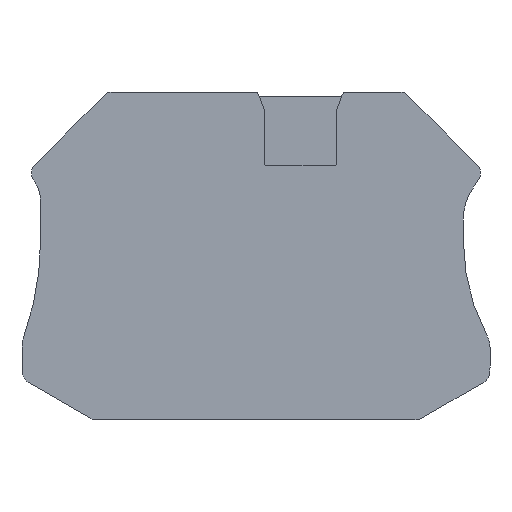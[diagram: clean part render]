
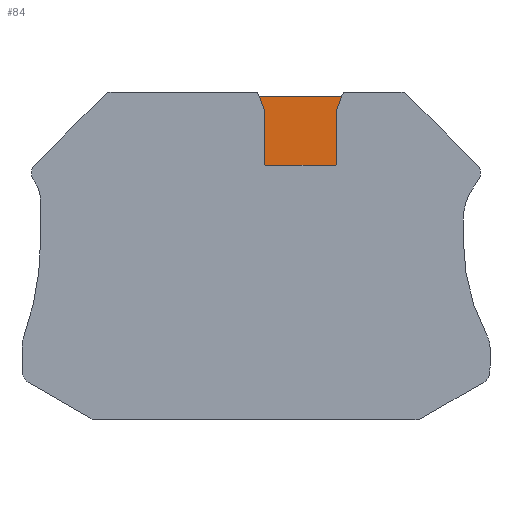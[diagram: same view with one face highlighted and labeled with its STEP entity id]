
A CAD part, left-side view. The second image highlights one B-rep face of the part: STEP entity #84.
In plain terms, the highlighted planar face has unit normal (-1, 0, 0).
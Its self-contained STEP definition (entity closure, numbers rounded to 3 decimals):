
#84=ADVANCED_FACE('',(#181),#182,.T.);
#181=FACE_OUTER_BOUND('',#297,.T.);
#182=PLANE('',#298);
#297=EDGE_LOOP('',(#701,#702,#703,#704,#705,#706,#707,#708,#709,#710));
#298=AXIS2_PLACEMENT_3D('',#711,#712,#713);
#701=ORIENTED_EDGE('',*,*,#978,.T.);
#702=ORIENTED_EDGE('',*,*,#992,.T.);
#703=ORIENTED_EDGE('',*,*,#993,.F.);
#704=ORIENTED_EDGE('',*,*,#994,.T.);
#705=ORIENTED_EDGE('',*,*,#995,.T.);
#706=ORIENTED_EDGE('',*,*,#996,.T.);
#707=ORIENTED_EDGE('',*,*,#997,.T.);
#708=ORIENTED_EDGE('',*,*,#998,.T.);
#709=ORIENTED_EDGE('',*,*,#961,.T.);
#710=ORIENTED_EDGE('',*,*,#967,.T.);
#711=CARTESIAN_POINT('',(0.3,35.942,-18.95));
#712=DIRECTION('',(-1.0,0.,0.));
#713=DIRECTION('',(0.,-1.0,0.));
#961=EDGE_CURVE('',#1221,#1222,#1223,.T.);
#967=EDGE_CURVE('',#1222,#1230,#1233,.T.);
#978=EDGE_CURVE('',#1230,#1250,#1252,.T.);
#992=EDGE_CURVE('',#1250,#1266,#1267,.T.);
#993=EDGE_CURVE('',#1268,#1266,#1269,.T.);
#994=EDGE_CURVE('',#1268,#1270,#1271,.T.);
#995=EDGE_CURVE('',#1270,#1272,#1273,.T.);
#996=EDGE_CURVE('',#1272,#1274,#1275,.T.);
#997=EDGE_CURVE('',#1274,#1276,#1277,.T.);
#998=EDGE_CURVE('',#1276,#1221,#1278,.T.);
#1221=VERTEX_POINT('',#1575);
#1222=VERTEX_POINT('',#1576);
#1223=LINE('',#1577,#1578);
#1230=VERTEX_POINT('',#1589);
#1233=LINE('',#1593,#1594);
#1250=VERTEX_POINT('',#1616);
#1252=LINE('',#1619,#1620);
#1266=VERTEX_POINT('',#1647);
#1267=CIRCLE('',#1648,1.0);
#1268=VERTEX_POINT('',#1649);
#1269=LINE('',#1650,#1651);
#1270=VERTEX_POINT('',#1652);
#1271=CIRCLE('',#1653,0.2);
#1272=VERTEX_POINT('',#1654);
#1273=LINE('',#1655,#1656);
#1274=VERTEX_POINT('',#1657);
#1275=CIRCLE('',#1658,0.2);
#1276=VERTEX_POINT('',#1659);
#1277=LINE('',#1660,#1661);
#1278=CIRCLE('',#1662,1.0);
#1575=CARTESIAN_POINT('',(0.3,24.469,-20.482));
#1576=CARTESIAN_POINT('',(0.3,23.912,-18.95));
#1577=CARTESIAN_POINT('',(0.3,24.469,-20.482));
#1578=VECTOR('',#1907,1.631);
#1589=CARTESIAN_POINT('',(0.3,33.948,-18.95));
#1593=CARTESIAN_POINT('',(0.3,23.912,-18.95));
#1594=VECTOR('',#1913,10.036);
#1616=CARTESIAN_POINT('',(0.3,33.39,-20.482));
#1619=CARTESIAN_POINT('',(0.3,33.948,-18.95));
#1620=VECTOR('',#1932,1.631);
#1647=CARTESIAN_POINT('',(0.3,33.33,-20.824));
#1648=AXIS2_PLACEMENT_3D('',#1946,#1947,#1948);
#1649=CARTESIAN_POINT('',(0.3,33.33,-27.15));
#1650=CARTESIAN_POINT('',(0.3,33.33,-27.15));
#1651=VECTOR('',#1949,6.326);
#1652=CARTESIAN_POINT('',(0.3,33.13,-27.35));
#1653=AXIS2_PLACEMENT_3D('',#1950,#1951,#1952);
#1654=CARTESIAN_POINT('',(0.3,24.73,-27.35));
#1655=CARTESIAN_POINT('',(0.3,33.13,-27.35));
#1656=VECTOR('',#1953,8.4);
#1657=CARTESIAN_POINT('',(0.3,24.53,-27.15));
#1658=AXIS2_PLACEMENT_3D('',#1954,#1955,#1956);
#1659=CARTESIAN_POINT('',(0.3,24.53,-20.824));
#1660=CARTESIAN_POINT('',(0.3,24.53,-27.15));
#1661=VECTOR('',#1957,6.326);
#1662=AXIS2_PLACEMENT_3D('',#1958,#1959,#1960);
#1907=DIRECTION('',(0.,-0.342,0.94));
#1913=DIRECTION('',(0.,1.0,0.));
#1932=DIRECTION('',(0.,-0.342,-0.94));
#1946=CARTESIAN_POINT('',(0.3,34.33,-20.824));
#1947=DIRECTION('',(1.0,0.,0.));
#1948=DIRECTION('',(0.,-0.94,0.342));
#1949=DIRECTION('',(0.,0.,1.0));
#1950=CARTESIAN_POINT('',(0.3,33.13,-27.15));
#1951=DIRECTION('',(-1.0,0.,0.));
#1952=DIRECTION('',(0.,1.0,0.));
#1953=DIRECTION('',(0.,-1.0,0.));
#1954=CARTESIAN_POINT('',(0.3,24.73,-27.15));
#1955=DIRECTION('',(-1.0,0.,0.));
#1956=DIRECTION('',(0.,0.,-1.0));
#1957=DIRECTION('',(0.,0.,1.0));
#1958=CARTESIAN_POINT('',(0.3,23.53,-20.824));
#1959=DIRECTION('',(1.0,0.,0.));
#1960=DIRECTION('',(0.,1.0,0.));
